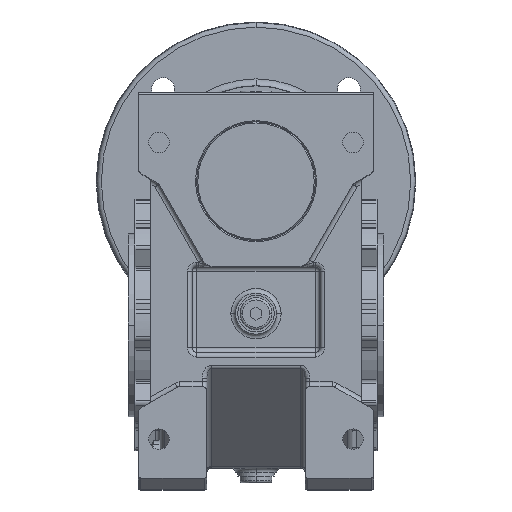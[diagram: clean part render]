
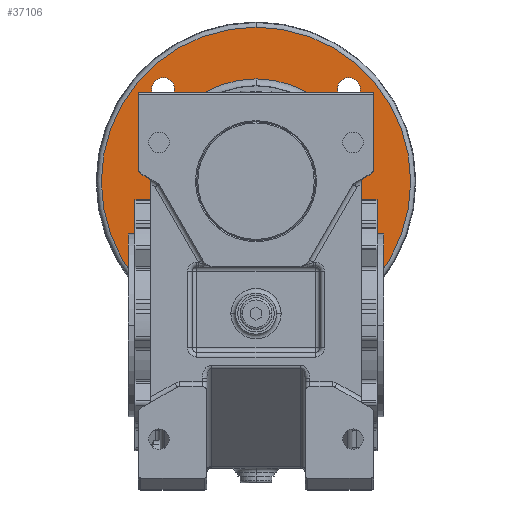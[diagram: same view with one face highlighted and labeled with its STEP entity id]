
A CAD part, top view. The second image highlights one B-rep face of the part: STEP entity #37106.
In plain terms, the highlighted planar face has unit normal (0, 0, 1).
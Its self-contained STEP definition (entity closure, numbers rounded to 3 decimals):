
#35770 = EDGE_CURVE ( 'NONE', #35771, #35805, #180404, .T. ) ;
#35771 = VERTEX_POINT ( 'NONE', #180395 ) ;
#35805 = VERTEX_POINT ( 'NONE', #180463 ) ;
#36025 = EDGE_LOOP ( 'NONE', ( #37346, #37341 ) ) ;
#36109 = VERTEX_POINT ( 'NONE', #180852 ) ;
#36221 = EDGE_CURVE ( 'NONE', #36453, #36250, #180974, .T. ) ;
#36235 = VERTEX_POINT ( 'NONE', #181022 ) ;
#36250 = VERTEX_POINT ( 'NONE', #181010 ) ;
#36276 = VERTEX_POINT ( 'NONE', #181112 ) ;
#36382 = EDGE_CURVE ( 'NONE', #36235, #36109, #181285, .T. ) ;
#36426 = EDGE_CURVE ( 'NONE', #36428, #36276, #181307, .T. ) ;
#36428 = VERTEX_POINT ( 'NONE', #181303 ) ;
#36453 = VERTEX_POINT ( 'NONE', #181292 ) ;
#36857 = EDGE_CURVE ( 'NONE', #36860, #36863, #181857, .T. ) ;
#36860 = VERTEX_POINT ( 'NONE', #181852 ) ;
#36863 = VERTEX_POINT ( 'NONE', #181851 ) ;
#36954 = EDGE_CURVE ( 'NONE', #36956, #36974, #181987, .T. ) ;
#36956 = VERTEX_POINT ( 'NONE', #181982 ) ;
#36974 = VERTEX_POINT ( 'NONE', #181964 ) ;
#37106 = ADVANCED_FACE ( 'NONE', ( #182064, #182063, #182118, #182117, #182116, #182115 ), #182114, .T. ) ;
#37108 = ORIENTED_EDGE ( 'NONE', *, *, #36426, .T. ) ;
#37110 = ORIENTED_EDGE ( 'NONE', *, *, #37149, .T. ) ;
#37126 = ORIENTED_EDGE ( 'NONE', *, *, #36382, .T. ) ;
#37127 = EDGE_CURVE ( 'NONE', #36974, #36956, #182099, .T. ) ;
#37146 = EDGE_CURVE ( 'NONE', #36109, #36235, #182151, .T. ) ;
#37149 = EDGE_CURVE ( 'NONE', #36276, #36428, #182146, .T. ) ;
#37204 = EDGE_CURVE ( 'NONE', #36250, #36453, #182161, .T. ) ;
#37209 = EDGE_LOOP ( 'NONE', ( #37355, #37508 ) ) ;
#37226 = ORIENTED_EDGE ( 'NONE', *, *, #35770, .T. ) ;
#37230 = ORIENTED_EDGE ( 'NONE', *, *, #37232, .T. ) ;
#37232 = EDGE_CURVE ( 'NONE', #35805, #35771, #182212, .T. ) ;
#37238 = EDGE_LOOP ( 'NONE', ( #37230, #37226 ) ) ;
#37244 = EDGE_LOOP ( 'NONE', ( #37270, #37126 ) ) ;
#37247 = EDGE_LOOP ( 'NONE', ( #37110, #37108 ) ) ;
#37270 = ORIENTED_EDGE ( 'NONE', *, *, #37146, .T. ) ;
#37341 = ORIENTED_EDGE ( 'NONE', *, *, #36221, .T. ) ;
#37346 = ORIENTED_EDGE ( 'NONE', *, *, #37204, .T. ) ;
#37355 = ORIENTED_EDGE ( 'NONE', *, *, #37357, .T. ) ;
#37357 = EDGE_CURVE ( 'NONE', #36863, #36860, #182279, .T. ) ;
#37360 = ORIENTED_EDGE ( 'NONE', *, *, #36954, .F. ) ;
#37362 = ORIENTED_EDGE ( 'NONE', *, *, #37127, .F. ) ;
#37508 = ORIENTED_EDGE ( 'NONE', *, *, #36857, .T. ) ;
#37512 = EDGE_LOOP ( 'NONE', ( #37360, #37362 ) ) ;
#180395 = CARTESIAN_POINT ( 'NONE',  ( -35.659, -40.659, 10. ) ) ;
#180396 = DIRECTION ( 'NONE',  ( 1., 0., 0. ) ) ;
#180397 = DIRECTION ( 'NONE',  ( 0., 0., -1. ) ) ;
#180398 = CARTESIAN_POINT ( 'NONE',  ( -40.659, -40.659, 10. ) ) ;
#180399 = AXIS2_PLACEMENT_3D ( 'NONE', #180398, #180397, #180396 ) ;
#180404 = CIRCLE ( 'NONE', #180399, 5. ) ;
#180463 = CARTESIAN_POINT ( 'NONE',  ( -45.659, -40.659, 10. ) ) ;
#180852 = CARTESIAN_POINT ( 'NONE',  ( 35.659, -40.659, 10. ) ) ;
#180971 = DIRECTION ( 'NONE',  ( 1., 0., 0. ) ) ;
#180972 = DIRECTION ( 'NONE',  ( 0., 0., -1. ) ) ;
#180973 = AXIS2_PLACEMENT_3D ( 'NONE', #180979, #180972, #180971 ) ;
#180974 = CIRCLE ( 'NONE', #180973, 5. ) ;
#180979 = CARTESIAN_POINT ( 'NONE',  ( 40.659, 40.659, 10. ) ) ;
#181010 = CARTESIAN_POINT ( 'NONE',  ( 35.659, 40.659, 10. ) ) ;
#181022 = CARTESIAN_POINT ( 'NONE',  ( 45.659, -40.659, 10. ) ) ;
#181112 = CARTESIAN_POINT ( 'NONE',  ( -45.659, 40.659, 10. ) ) ;
#181282 = DIRECTION ( 'NONE',  ( 1., 0., 0. ) ) ;
#181283 = DIRECTION ( 'NONE',  ( 0., 0., -1. ) ) ;
#181284 = AXIS2_PLACEMENT_3D ( 'NONE', #181291, #181283, #181282 ) ;
#181285 = CIRCLE ( 'NONE', #181284, 5. ) ;
#181291 = CARTESIAN_POINT ( 'NONE',  ( 40.659, -40.659, 10. ) ) ;
#181292 = CARTESIAN_POINT ( 'NONE',  ( 45.659, 40.659, 10. ) ) ;
#181303 = CARTESIAN_POINT ( 'NONE',  ( -35.659, 40.659, 10. ) ) ;
#181304 = DIRECTION ( 'NONE',  ( 1., 0., 0. ) ) ;
#181305 = DIRECTION ( 'NONE',  ( 0., 0., -1. ) ) ;
#181306 = AXIS2_PLACEMENT_3D ( 'NONE', #181312, #181305, #181304 ) ;
#181307 = CIRCLE ( 'NONE', #181306, 5. ) ;
#181312 = CARTESIAN_POINT ( 'NONE',  ( -40.659, 40.659, 10. ) ) ;
#181851 = CARTESIAN_POINT ( 'NONE',  ( -45.072, 0., 10. ) ) ;
#181852 = CARTESIAN_POINT ( 'NONE',  ( 45.072, 0., 10. ) ) ;
#181853 = DIRECTION ( 'NONE',  ( -1., 0., 0. ) ) ;
#181854 = DIRECTION ( 'NONE',  ( 0., 0., -1. ) ) ;
#181855 = CARTESIAN_POINT ( 'NONE',  ( 0., 0., 10. ) ) ;
#181856 = AXIS2_PLACEMENT_3D ( 'NONE', #181855, #181854, #181853 ) ;
#181857 = CIRCLE ( 'NONE', #181856, 45.072 ) ;
#181964 = CARTESIAN_POINT ( 'NONE',  ( 67.719, 0., 10. ) ) ;
#181982 = CARTESIAN_POINT ( 'NONE',  ( -67.719, 0., 10. ) ) ;
#181983 = DIRECTION ( 'NONE',  ( -1., 0., 0. ) ) ;
#181984 = DIRECTION ( 'NONE',  ( 0., 0., -1. ) ) ;
#181985 = CARTESIAN_POINT ( 'NONE',  ( 0., 0., 10. ) ) ;
#181986 = AXIS2_PLACEMENT_3D ( 'NONE', #181985, #181984, #181983 ) ;
#181987 = CIRCLE ( 'NONE', #181986, 67.719 ) ;
#182063 = FACE_BOUND ( 'NONE', #37244, .T. ) ;
#182064 = FACE_BOUND ( 'NONE', #37238, .T. ) ;
#182095 = DIRECTION ( 'NONE',  ( -1., 0., 0. ) ) ;
#182096 = DIRECTION ( 'NONE',  ( 0., 0., -1. ) ) ;
#182097 = CARTESIAN_POINT ( 'NONE',  ( 0., 0., 10. ) ) ;
#182098 = AXIS2_PLACEMENT_3D ( 'NONE', #182097, #182096, #182095 ) ;
#182099 = CIRCLE ( 'NONE', #182098, 67.719 ) ;
#182110 = DIRECTION ( 'NONE',  ( 1., 0., 0. ) ) ;
#182111 = DIRECTION ( 'NONE',  ( 0., 0., 1. ) ) ;
#182112 = CARTESIAN_POINT ( 'NONE',  ( 0., 67.719, 10. ) ) ;
#182113 = AXIS2_PLACEMENT_3D ( 'NONE', #182112, #182111, #182110 ) ;
#182114 = PLANE ( 'NONE',  #182113 ) ;
#182115 = FACE_OUTER_BOUND ( 'NONE', #37512, .T. ) ;
#182116 = FACE_BOUND ( 'NONE', #37209, .T. ) ;
#182117 = FACE_BOUND ( 'NONE', #36025, .T. ) ;
#182118 = FACE_BOUND ( 'NONE', #37247, .T. ) ;
#182142 = DIRECTION ( 'NONE',  ( 1., 0., 0. ) ) ;
#182143 = DIRECTION ( 'NONE',  ( 0., 0., -1. ) ) ;
#182144 = CARTESIAN_POINT ( 'NONE',  ( -40.659, 40.659, 10. ) ) ;
#182145 = AXIS2_PLACEMENT_3D ( 'NONE', #182144, #182143, #182142 ) ;
#182146 = CIRCLE ( 'NONE', #182145, 5. ) ;
#182147 = DIRECTION ( 'NONE',  ( 1., 0., 0. ) ) ;
#182148 = DIRECTION ( 'NONE',  ( 0., 0., -1. ) ) ;
#182149 = CARTESIAN_POINT ( 'NONE',  ( 40.659, -40.659, 10. ) ) ;
#182150 = AXIS2_PLACEMENT_3D ( 'NONE', #182149, #182148, #182147 ) ;
#182151 = CIRCLE ( 'NONE', #182150, 5. ) ;
#182157 = DIRECTION ( 'NONE',  ( 1., 0., 0. ) ) ;
#182158 = DIRECTION ( 'NONE',  ( 0., 0., -1. ) ) ;
#182159 = CARTESIAN_POINT ( 'NONE',  ( 40.659, 40.659, 10. ) ) ;
#182160 = AXIS2_PLACEMENT_3D ( 'NONE', #182159, #182158, #182157 ) ;
#182161 = CIRCLE ( 'NONE', #182160, 5. ) ;
#182208 = DIRECTION ( 'NONE',  ( 1., 0., 0. ) ) ;
#182209 = DIRECTION ( 'NONE',  ( 0., 0., -1. ) ) ;
#182210 = CARTESIAN_POINT ( 'NONE',  ( -40.659, -40.659, 10. ) ) ;
#182211 = AXIS2_PLACEMENT_3D ( 'NONE', #182210, #182209, #182208 ) ;
#182212 = CIRCLE ( 'NONE', #182211, 5. ) ;
#182275 = DIRECTION ( 'NONE',  ( -1., 0., 0. ) ) ;
#182276 = DIRECTION ( 'NONE',  ( 0., 0., -1. ) ) ;
#182277 = CARTESIAN_POINT ( 'NONE',  ( 0., 0., 10. ) ) ;
#182278 = AXIS2_PLACEMENT_3D ( 'NONE', #182277, #182276, #182275 ) ;
#182279 = CIRCLE ( 'NONE', #182278, 45.072 ) ;
